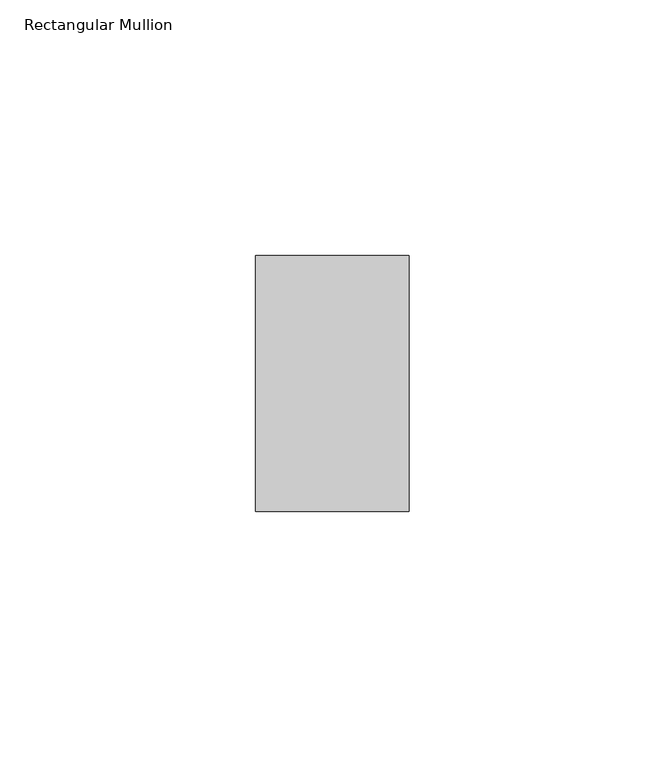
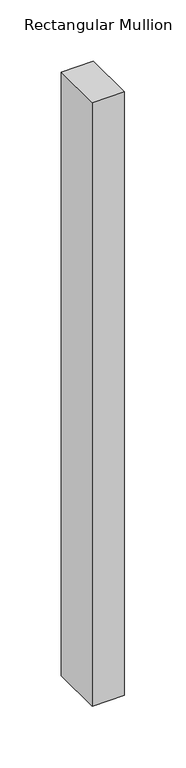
"""IFC4 building model written with IfcOpenShell, lengths in millimetres: member geometry, Rectangular Mullion : ARQ_TV_MULL_50x30mm."""

from ifc_helpers import new_model, si_unit, frame, origin, place, context, project, spatial, polyline, outline, extrude, source, transform, mapped, element, save


def rectangular_mullion_b27f267a(model_context):
    return source(origin(), model_context, "Body", "SweptSolid", [
        extrude(outline(polyline([(15.0, 25.0), (15.0, -25.0), (-15.0, -25.0), (-15.0, 25.0), (15.0, 25.0)])), frame((0.0, 0.0, -600.0), z_axis=(0.0, 0.0, 1.0), x_axis=(1.0, 0.0, 0.0)), (0.0, 0.0, 1.0), 600.0),
    ])


if __name__ == "__main__":
    model = new_model("IFC4")
    model_context = context("Model", 3, world=origin())
    ifc_project = project(units=[si_unit("LENGTHUNIT", "METRE", prefix="MILLI")], contexts=[model_context])
    site = spatial("IfcSite", under=ifc_project)
    building = spatial("IfcBuilding", under=site)
    placement = place(None, origin())
    rectangular_mullion_shape = rectangular_mullion_b27f267a(model_context)
    element("IfcMember", 1, ObjectType="Rectangular Mullion : ARQ_TV_MULL_50x30mm", at=placement, inside=building, context=model_context, shape_type="MappedRepresentation", body=[
        mapped(rectangular_mullion_shape, transform((0.0, 0.0, 0.0), x_axis=(1.0, 0.0, 0.0), y_axis=(0.0, 1.0, 0.0), z_axis=(0.0, 0.0, 1.0))),
    ])
    save(model, "model.ifc")
